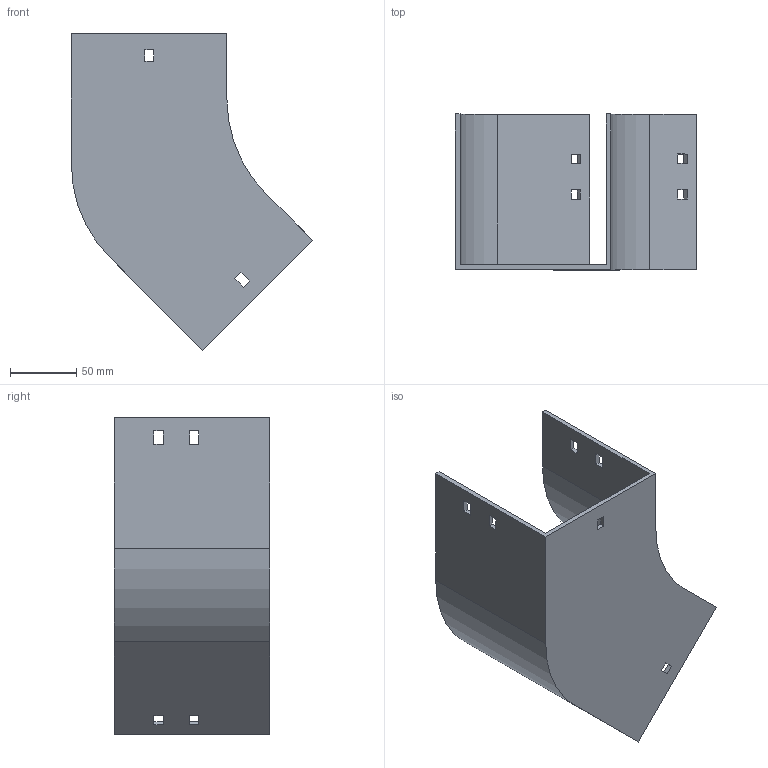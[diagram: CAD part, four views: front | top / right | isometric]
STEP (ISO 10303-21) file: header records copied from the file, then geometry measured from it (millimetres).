
FILE_DESCRIPTION (( 'STEP AP214' ), '1' );
FILE_NAME ('11B1J117.step', '2025-02-21T09:36:58', ( '' ), ( '' ), 'SwSTEP 2.0', 'SolidWorks 2023', '' );
FILE_SCHEMA (( 'AUTOMOTIVE_DESIGN' ));
Length unit declared in the file: millimetre
Products named in the file (1): 11B1J117
Bounding box: 182.14 x 117.5 x 239.15 mm (x, y, z)
Volume: 274153.6 mm3; surface area: 161837.2 mm2
Topology: 1 solids, 1 shells, 58 faces, 168 edges, 112 vertices
Faces by surface type: plane 54, cylinder 4
Entity records: 1943 total; most frequent: CARTESIAN_POINT 339, ORIENTED_EDGE 336, DIRECTION 294, EDGE_CURVE 168, VECTOR 160, LINE 160, VERTEX_POINT 112, EDGE_LOOP 78
